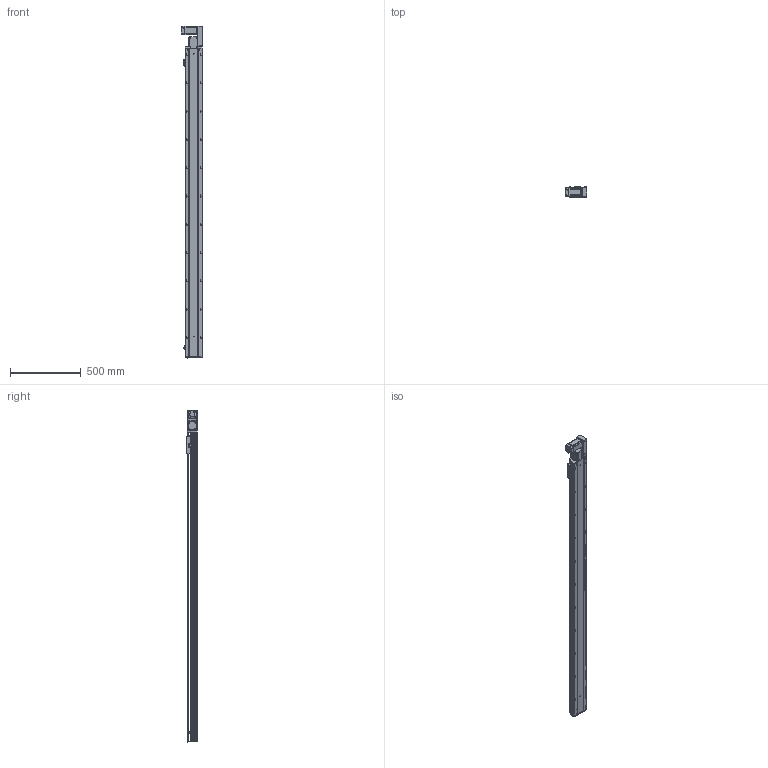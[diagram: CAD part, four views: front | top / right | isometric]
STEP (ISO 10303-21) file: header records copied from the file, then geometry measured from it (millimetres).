
FILE_DESCRIPTION (( 'STEP AP203' ), '1' );
FILE_NAME ('RY120-T-300-RK.SLDASM_1950.step', '2021-03-01T03:55:17', ( '盈信电脑' ), ( '东莞市道滘镇水果街19号' ), 'SwSTEP 2.0', 'SolidWorks 2012', '' );
FILE_SCHEMA (( 'CONFIG_CONTROL_DESIGN' ));
Length unit declared in the file: millimetre
Products named in the file (17): RY120-T主同步轮轴承压盖; RY120-T-300-RK.SLDASM_1950; RY120-T蹟翐M4; RY120-T萇儂假蚾啣; RY120-T萇儂欶; 滅袉蝶18-10; 15; RY120-T翋肮祭盓傅釱; RY120-T翋肮祭謫裔啣; RY120-T肮祭湍揤踡輸2; RY120-T肮祭湍揤踡輸1; RY120外置感应片(140共用）; 覜茼ん672; RY120肮祭湍臏賑輸; RY120綴裔啣; RY120-T-300-RK倰第奻裔啣_1950; RY120-T-300-RK倰第菁釱_1950
Assembly tree (22 placements, depth 2):
  RY120-T-300-RK.SLDASM_1950
    RY120-T-300-RK倰第菁釱_1950
    RY120-T-300-RK倰第奻裔啣_1950
    RY120肮祭湍臏賑輸
    RY120綴裔啣
    覜茼ん672  x3
    RY120外置感应片(140共用）
    RY120-T肮祭湍揤踡輸1
    RY120-T肮祭湍揤踡輸2
    RY120-T翋肮祭盓傅釱
    滅袉蝶18-10  x2
    RY120-T翋肮祭謫裔啣
    15
    RY120-T萇儂假蚾啣
    RY120-T蹟翐M4  x4
    RY120-T萇儂欶
    RY120-T主同步轮轴承压盖
Bounding box: 155.5 x 73 x 2347.5 mm (x, y, z)
Volume: 5696691.4 mm3; surface area: 2174962.8 mm2
Topology: 23 solids, 23 shells, 3108 faces, 8508 edges, 5422 vertices
Faces by surface type: plane 1452, cylinder 1246, cone 321, bspline 89
Entity records: 100057 total; most frequent: CARTESIAN_POINT 26196, ORIENTED_EDGE 15312, DIRECTION 14430, EDGE_CURVE 7656, VERTEX_POINT 5009, AXIS2_PLACEMENT_3D 4903, VECTOR 4624, LINE 4624
